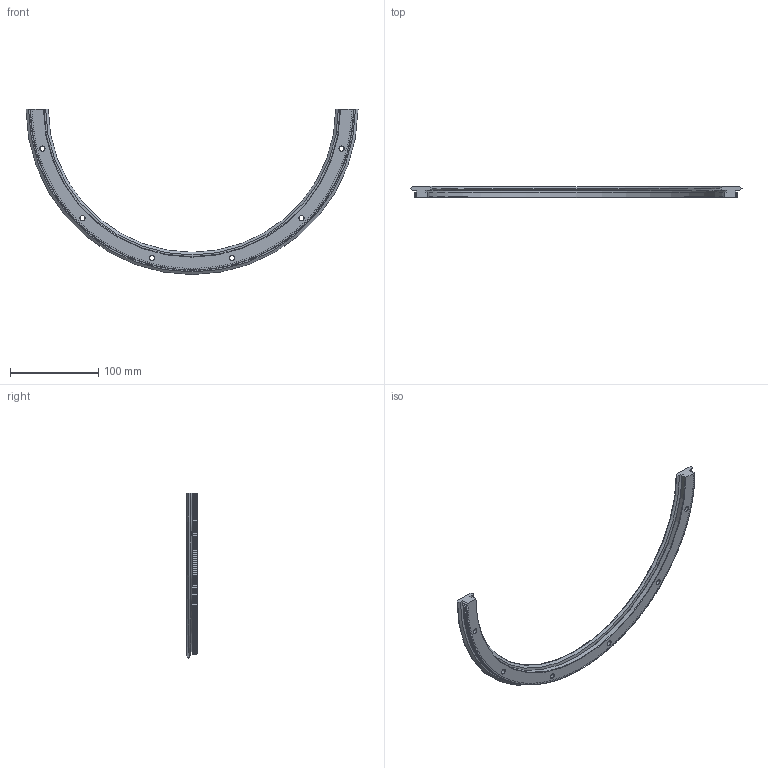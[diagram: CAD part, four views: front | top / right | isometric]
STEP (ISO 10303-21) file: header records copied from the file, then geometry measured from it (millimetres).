
FILE_DESCRIPTION( ( 'STEP AP203' ), '1' );
FILE_NAME( 'p:/temp/worker_20/temp/exporttempdir_3124_267_9HKK9/format_0/R25 351 R180 P.stp', '2021-07-19T05:40:21', ( 'License CC BY-ND 4.0' ), ( 'CADENAS' ), ' ', 'PARTsolutions', ' ' );
FILE_SCHEMA( ( 'CONFIG_CONTROL_DESIGN' ) );
Length unit declared in the file: millimetre
Products named in the file (1): _R25 351 R180 P
Bounding box: 376.18 x 12.25 x 187.09 mm (x, y, z)
Volume: 110680.5 mm3; surface area: 47414.6 mm2
Topology: 1 solids, 1 shells, 1408 faces, 3738 edges, 2338 vertices
Faces by surface type: plane 926, cylinder 242, cone 238, torus 2
Full cylindrical faces by diameter (mm): 5.5 x6, 9 x6
Entity records: 43768 total; most frequent: CARTESIAN_POINT 8882, ORIENTED_EDGE 7440, DIRECTION 7252, EDGE_CURVE 3720, AXIS2_PLACEMENT_3D 2591, VERTEX_POINT 2339, LINE 2070, VECTOR 2070
